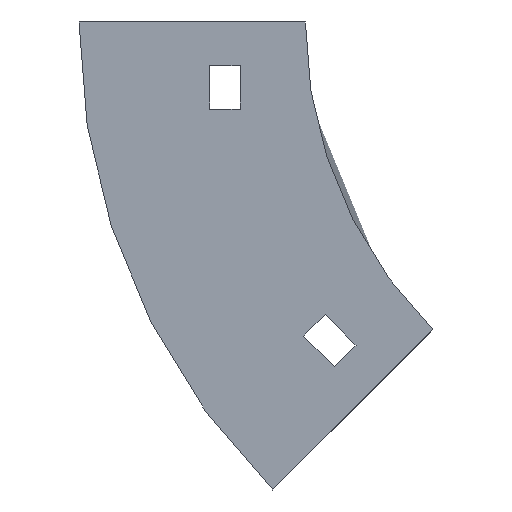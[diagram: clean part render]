
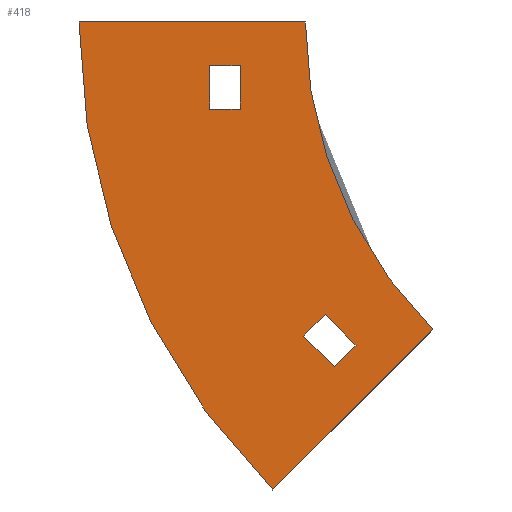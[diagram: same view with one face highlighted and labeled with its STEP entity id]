
A CAD part, left-side view. The second image highlights one B-rep face of the part: STEP entity #418.
In plain terms, the highlighted planar face has unit normal (-1, 0, 0).
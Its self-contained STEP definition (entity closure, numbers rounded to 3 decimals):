
#6 = AXIS2_PLACEMENT_3D ( 'NONE', #277, #8, #814 ) ;
#8 = DIRECTION ( 'NONE',  ( -1., 0., 0. ) ) ;
#11 = EDGE_LOOP ( 'NONE', ( #1052, #745, #812, #645 ) ) ;
#23 = DIRECTION ( 'NONE',  ( 1., 0., 0. ) ) ;
#42 = CARTESIAN_POINT ( 'NONE',  ( -302., -11.612, -74.246 ) ) ;
#50 = EDGE_CURVE ( 'NONE', #339, #661, #159, .T. ) ;
#63 = CIRCLE ( 'NONE', #1097, 152. ) ;
#93 = DIRECTION ( 'NONE',  ( 0., -1., 0. ) ) ;
#96 = EDGE_CURVE ( 'NONE', #866, #1013, #356, .T. ) ;
#102 = FACE_BOUND ( 'NONE', #192, .T. ) ;
#106 = DIRECTION ( 'NONE',  ( 0., 0., 1. ) ) ;
#110 = VECTOR ( 'NONE', #680, 1000. ) ;
#127 = VECTOR ( 'NONE', #711, 1000. ) ;
#136 = CARTESIAN_POINT ( 'NONE',  ( -302., 22., -10. ) ) ;
#159 = CIRCLE ( 'NONE', #933, 100. ) ;
#175 = EDGE_CURVE ( 'NONE', #273, #789, #725, .T. ) ;
#192 = EDGE_LOOP ( 'NONE', ( #629, #1103, #1112, #332 ) ) ;
#193 = VECTOR ( 'NONE', #539, 1000. ) ;
#199 = CARTESIAN_POINT ( 'NONE',  ( -302., -100., 0. ) ) ;
#237 = DIRECTION ( 'NONE',  ( 0., 0.707, 0.707 ) ) ;
#266 = LINE ( 'NONE', #705, #750 ) ;
#273 = VERTEX_POINT ( 'NONE', #586 ) ;
#276 = VECTOR ( 'NONE', #237, 1000. ) ;
#277 = CARTESIAN_POINT ( 'NONE',  ( -302., -100., 0. ) ) ;
#314 = VECTOR ( 'NONE', #948, 1000. ) ;
#321 = VERTEX_POINT ( 'NONE', #608 ) ;
#332 = ORIENTED_EDGE ( 'NONE', *, *, #987, .T. ) ;
#339 = VERTEX_POINT ( 'NONE', #703 ) ;
#342 = ORIENTED_EDGE ( 'NONE', *, *, #871, .F. ) ;
#349 = DIRECTION ( 'NONE',  ( 0., 0., -1. ) ) ;
#356 = LINE ( 'NONE', #966, #127 ) ;
#360 = CARTESIAN_POINT ( 'NONE',  ( -302., -29.289, -70.711 ) ) ;
#381 = PLANE ( 'NONE',  #6 ) ;
#383 = CARTESIAN_POINT ( 'NONE',  ( -302., 22., -20. ) ) ;
#396 = CARTESIAN_POINT ( 'NONE',  ( -302., 15., -10. ) ) ;
#401 = CARTESIAN_POINT ( 'NONE',  ( -302., 22., -10. ) ) ;
#418 = ADVANCED_FACE ( 'NONE', ( #102, #728, #453 ), #381, .T. ) ;
#453 = FACE_BOUND ( 'NONE', #11, .T. ) ;
#476 = CARTESIAN_POINT ( 'NONE',  ( -302., 0.409, -72.125 ) ) ;
#498 = VECTOR ( 'NONE', #563, 1000. ) ;
#499 = LINE ( 'NONE', #862, #110 ) ;
#504 = EDGE_CURVE ( 'NONE', #321, #926, #938, .T. ) ;
#539 = DIRECTION ( 'NONE',  ( 0., 1., 0. ) ) ;
#563 = DIRECTION ( 'NONE',  ( 0., -1., 0. ) ) ;
#567 = DIRECTION ( 'NONE',  ( 0., 0.707, -0.707 ) ) ;
#579 = LINE ( 'NONE', #42, #276 ) ;
#586 = CARTESIAN_POINT ( 'NONE',  ( -302., 15., -20. ) ) ;
#605 = VERTEX_POINT ( 'NONE', #847 ) ;
#608 = CARTESIAN_POINT ( 'NONE',  ( -302., 22., -10. ) ) ;
#629 = ORIENTED_EDGE ( 'NONE', *, *, #504, .T. ) ;
#645 = ORIENTED_EDGE ( 'NONE', *, *, #904, .F. ) ;
#661 = VERTEX_POINT ( 'NONE', #767 ) ;
#677 = VECTOR ( 'NONE', #93, 1000. ) ;
#680 = DIRECTION ( 'NONE',  ( 0., -0.707, 0.707 ) ) ;
#684 = LINE ( 'NONE', #401, #314 ) ;
#691 = EDGE_CURVE ( 'NONE', #926, #273, #266, .T. ) ;
#703 = CARTESIAN_POINT ( 'NONE',  ( -302., 0., 0. ) ) ;
#705 = CARTESIAN_POINT ( 'NONE',  ( -302., 15., -10. ) ) ;
#711 = DIRECTION ( 'NONE',  ( 0., -0.707, -0.707 ) ) ;
#725 = LINE ( 'NONE', #730, #193 ) ;
#728 = FACE_OUTER_BOUND ( 'NONE', #936, .T. ) ;
#730 = CARTESIAN_POINT ( 'NONE',  ( -302., 22., -20. ) ) ;
#745 = ORIENTED_EDGE ( 'NONE', *, *, #995, .F. ) ;
#750 = VECTOR ( 'NONE', #349, 1000. ) ;
#767 = CARTESIAN_POINT ( 'NONE',  ( -302., -29.289, -70.711 ) ) ;
#789 = VERTEX_POINT ( 'NONE', #383 ) ;
#797 = VERTEX_POINT ( 'NONE', #815 ) ;
#798 = LINE ( 'NONE', #360, #1044 ) ;
#803 = CARTESIAN_POINT ( 'NONE',  ( -302., 52., 0. ) ) ;
#812 = ORIENTED_EDGE ( 'NONE', *, *, #96, .F. ) ;
#814 = DIRECTION ( 'NONE',  ( 0., 0., 1. ) ) ;
#815 = CARTESIAN_POINT ( 'NONE',  ( -302., -11.612, -74.246 ) ) ;
#825 = VECTOR ( 'NONE', #567, 1000. ) ;
#846 = ORIENTED_EDGE ( 'NONE', *, *, #1105, .F. ) ;
#847 = CARTESIAN_POINT ( 'NONE',  ( -302., 52., 0. ) ) ;
#862 = CARTESIAN_POINT ( 'NONE',  ( -302., -6.662, -79.196 ) ) ;
#866 = VERTEX_POINT ( 'NONE', #901 ) ;
#871 = EDGE_CURVE ( 'NONE', #874, #605, #63, .T. ) ;
#874 = VERTEX_POINT ( 'NONE', #916 ) ;
#881 = DIRECTION ( 'NONE',  ( -1., 0., 0. ) ) ;
#883 = ORIENTED_EDGE ( 'NONE', *, *, #1130, .F. ) ;
#885 = DIRECTION ( 'NONE',  ( 0., 0.707, -0.707 ) ) ;
#888 = CARTESIAN_POINT ( 'NONE',  ( -302., -100., 0. ) ) ;
#898 = VERTEX_POINT ( 'NONE', #924 ) ;
#901 = CARTESIAN_POINT ( 'NONE',  ( -302., 0.409, -72.125 ) ) ;
#904 = EDGE_CURVE ( 'NONE', #898, #866, #1116, .T. ) ;
#916 = CARTESIAN_POINT ( 'NONE',  ( -302., 7.48, -107.48 ) ) ;
#924 = CARTESIAN_POINT ( 'NONE',  ( -302., -4.541, -67.175 ) ) ;
#926 = VERTEX_POINT ( 'NONE', #396 ) ;
#933 = AXIS2_PLACEMENT_3D ( 'NONE', #888, #881, #1144 ) ;
#936 = EDGE_LOOP ( 'NONE', ( #1019, #846, #342, #883 ) ) ;
#938 = LINE ( 'NONE', #136, #498 ) ;
#948 = DIRECTION ( 'NONE',  ( 0., 0., 1. ) ) ;
#966 = CARTESIAN_POINT ( 'NONE',  ( -302., -6.662, -79.196 ) ) ;
#968 = LINE ( 'NONE', #803, #677 ) ;
#975 = EDGE_CURVE ( 'NONE', #797, #898, #579, .T. ) ;
#987 = EDGE_CURVE ( 'NONE', #789, #321, #684, .T. ) ;
#995 = EDGE_CURVE ( 'NONE', #1013, #797, #499, .T. ) ;
#1013 = VERTEX_POINT ( 'NONE', #1113 ) ;
#1019 = ORIENTED_EDGE ( 'NONE', *, *, #50, .F. ) ;
#1044 = VECTOR ( 'NONE', #885, 1000. ) ;
#1052 = ORIENTED_EDGE ( 'NONE', *, *, #975, .F. ) ;
#1097 = AXIS2_PLACEMENT_3D ( 'NONE', #199, #23, #106 ) ;
#1103 = ORIENTED_EDGE ( 'NONE', *, *, #691, .T. ) ;
#1105 = EDGE_CURVE ( 'NONE', #605, #339, #968, .T. ) ;
#1112 = ORIENTED_EDGE ( 'NONE', *, *, #175, .T. ) ;
#1113 = CARTESIAN_POINT ( 'NONE',  ( -302., -6.662, -79.196 ) ) ;
#1116 = LINE ( 'NONE', #476, #825 ) ;
#1130 = EDGE_CURVE ( 'NONE', #661, #874, #798, .T. ) ;
#1144 = DIRECTION ( 'NONE',  ( 0., 0., 1. ) ) ;
